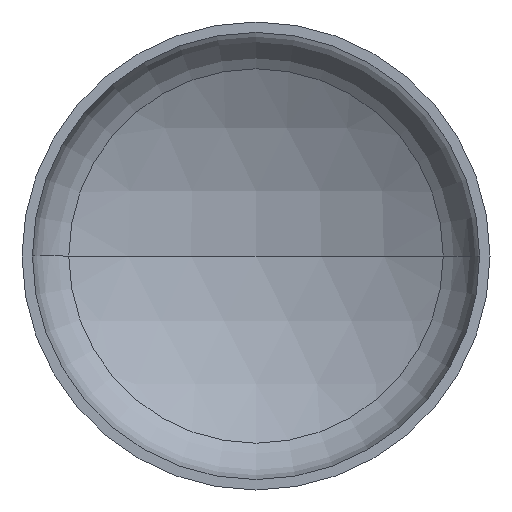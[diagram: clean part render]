
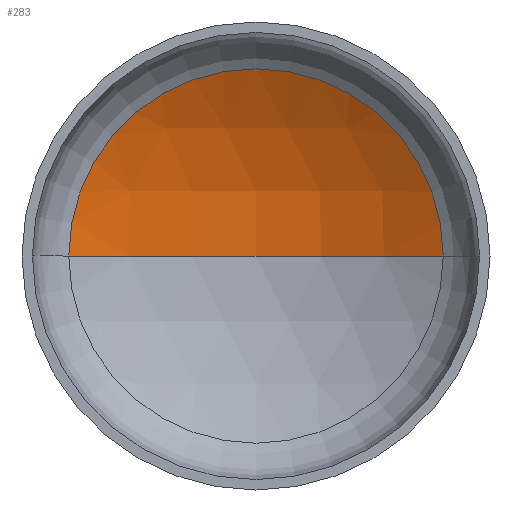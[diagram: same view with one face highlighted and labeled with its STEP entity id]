
A CAD part, front view. The second image highlights one B-rep face of the part: STEP entity #283.
In plain terms, the highlighted spherical face has radius 720 mm.
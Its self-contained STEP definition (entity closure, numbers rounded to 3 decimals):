
#12 = AXIS2_PLACEMENT_3D ( 'NONE', #382, #245, #247 ) ;
#13 = AXIS2_PLACEMENT_3D ( 'NONE', #129, #313, #398 ) ;
#17 = AXIS2_PLACEMENT_3D ( 'NONE', #158, #154, #157 ) ;
#24 = DIRECTION ( 'NONE',  ( 0., 0., -1. ) ) ;
#26 = AXIS2_PLACEMENT_3D ( 'NONE', #204, #24, #259 ) ;
#33 = EDGE_LOOP ( 'NONE', ( #94, #117, #75 ) ) ;
#36 = VERTEX_POINT ( 'NONE', #280 ) ;
#38 = VERTEX_POINT ( 'NONE', #284 ) ;
#75 = ORIENTED_EDGE ( 'NONE', *, *, #337, .T. ) ;
#94 = ORIENTED_EDGE ( 'NONE', *, *, #351, .F. ) ;
#117 = ORIENTED_EDGE ( 'NONE', *, *, #346, .T. ) ;
#129 = CARTESIAN_POINT ( 'NONE',  ( 0., -442.295, 0. ) ) ;
#130 = VERTEX_POINT ( 'NONE', #199 ) ;
#154 = DIRECTION ( 'NONE',  ( 0., -1., 0. ) ) ;
#157 = DIRECTION ( 'NONE',  ( 1., 0., 0. ) ) ;
#158 = CARTESIAN_POINT ( 'NONE',  ( 0., 181.244, 0. ) ) ;
#169 = CIRCLE ( 'NONE', #13, 720. ) ;
#175 = CIRCLE ( 'NONE', #17, 360. ) ;
#182 = SPHERICAL_SURFACE ( 'NONE', #26, 720. ) ;
#199 = CARTESIAN_POINT ( 'NONE',  ( -360., 181.244, 0. ) ) ;
#204 = CARTESIAN_POINT ( 'NONE',  ( 0., -442.295, 0. ) ) ;
#245 = DIRECTION ( 'NONE',  ( 0., 0., -1. ) ) ;
#247 = DIRECTION ( 'NONE',  ( -1., 0., 0. ) ) ;
#257 = FACE_OUTER_BOUND ( 'NONE', #33, .T. ) ;
#259 = DIRECTION ( 'NONE',  ( -1., 0., 0. ) ) ;
#280 = CARTESIAN_POINT ( 'NONE',  ( 0., 277.705, 0. ) ) ;
#283 = ADVANCED_FACE ( 'NONE', ( #257 ), #182, .F. ) ;
#284 = CARTESIAN_POINT ( 'NONE',  ( 360., 181.244, 0. ) ) ;
#313 = DIRECTION ( 'NONE',  ( 0., 0., 1. ) ) ;
#337 = EDGE_CURVE ( 'NONE', #38, #130, #175, .T. ) ;
#346 = EDGE_CURVE ( 'NONE', #36, #38, #360, .T. ) ;
#351 = EDGE_CURVE ( 'NONE', #36, #130, #169, .T. ) ;
#360 = CIRCLE ( 'NONE', #12, 720. ) ;
#382 = CARTESIAN_POINT ( 'NONE',  ( 0., -442.295, 0. ) ) ;
#398 = DIRECTION ( 'NONE',  ( 1., 0., 0. ) ) ;
